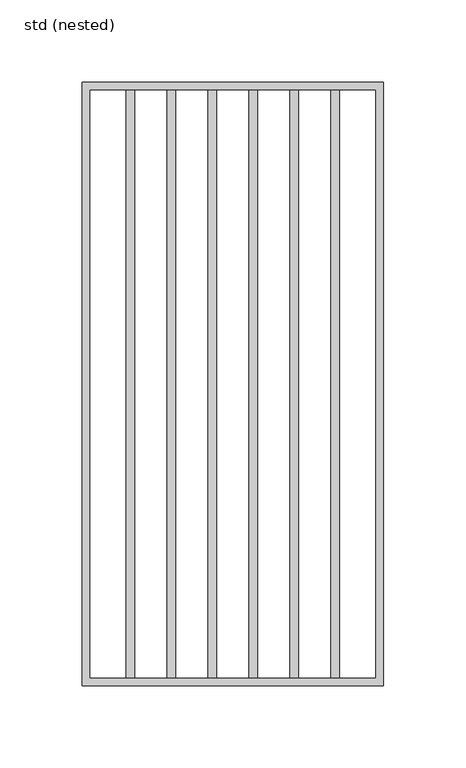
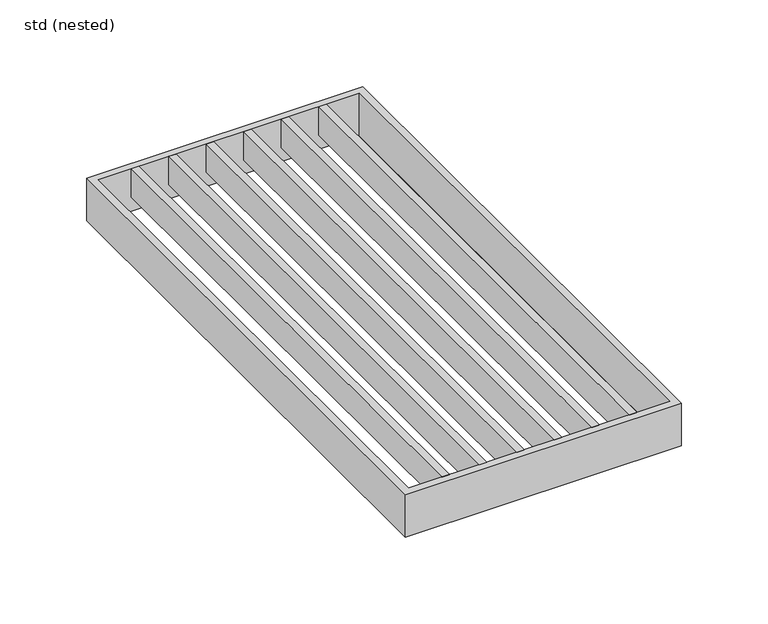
"""IFC4 building model written with IfcOpenShell, lengths in millimetres: sanitary terminal geometry, ZZZ_do not use_PF_ST_UN_grating for high capacity gully_ACO : std (nested)."""

from ifc_helpers import new_model, si_unit, frame, origin, place, context, project, spatial, polyline, outline, extrude, source, transform, mapped, element, save


def std_nested_dd35c763(model_context):
    return source(origin(), model_context, "Body", "SweptSolid", [
        extrude(outline(polyline([(-65.0, -179.0), (-65.0, 179.0), (-60.0, 179.0), (-60.0, -179.0), (-65.0, -179.0)])), frame((0.0, 0.0, -20.0), z_axis=(0.0, 0.0, 1.0), x_axis=(1.0, 0.0, 0.0)), (0.0, 0.0, 1.0), 20.0),
        extrude(outline(polyline([(-40.0, -179.0), (-40.0, 179.0), (-35.0, 179.0), (-35.0, -179.0), (-40.0, -179.0)])), frame((0.0, 0.0, -20.0), z_axis=(0.0, 0.0, 1.0), x_axis=(1.0, 0.0, 0.0)), (0.0, 0.0, 1.0), 20.0),
        extrude(outline(polyline([(65.0, -179.0), (60.0, -179.0), (60.0, 179.0), (65.0, 179.0), (65.0, -179.0)])), frame((0.0, 0.0, -20.0), z_axis=(0.0, 0.0, 1.0), x_axis=(1.0, 0.0, 0.0)), (0.0, 0.0, 1.0), 20.0),
        extrude(outline(polyline([(40.0, -179.0), (35.0, -179.0), (35.0, 179.0), (40.0, 179.0), (40.0, -179.0)])), frame((0.0, 0.0, -20.0), z_axis=(0.0, 0.0, 1.0), x_axis=(1.0, 0.0, 0.0)), (0.0, 0.0, 1.0), 20.0),
        extrude(outline(polyline([(-15.0, -179.0), (-15.0, 179.0), (-10.0, 179.0), (-10.0, -179.0), (-15.0, -179.0)])), frame((0.0, 0.0, -20.0), z_axis=(0.0, 0.0, 1.0), x_axis=(1.0, 0.0, 0.0)), (0.0, 0.0, 1.0), 20.0),
        extrude(outline(polyline([(15.0, -179.0), (10.0, -179.0), (10.0, 179.0), (15.0, 179.0), (15.0, -179.0)])), frame((0.0, 0.0, -20.0), z_axis=(0.0, 0.0, 1.0), x_axis=(1.0, 0.0, 0.0)), (0.0, 0.0, 1.0), 20.0),
        extrude(outline(polyline([(92.0, -184.0), (-92.0, -184.0), (-92.0, 184.0), (92.0, 184.0), (92.0, -184.0)]), holes=[polyline([(87.0, -179.0), (87.0, 179.0), (-87.0, 179.0), (-87.0, -179.0), (87.0, -179.0)])]), frame((0.0, 0.0, -30.0), z_axis=(0.0, 0.0, 1.0), x_axis=(1.0, 0.0, 0.0)), (0.0, 0.0, 1.0), 30.0),
    ])


if __name__ == "__main__":
    model = new_model("IFC4")
    model_context = context("Model", 3, world=origin())
    ifc_project = project(units=[si_unit("LENGTHUNIT", "METRE", prefix="MILLI")], contexts=[model_context])
    site = spatial("IfcSite", under=ifc_project)
    building = spatial("IfcBuilding", under=site)
    placement = place(None, origin())
    std_nested_shape = std_nested_dd35c763(model_context)
    element("IfcSanitaryTerminal", 1, ObjectType="ZZZ_do not use_PF_ST_UN_grating for high capacity gully_ACO : std (nested)", at=placement, inside=building, context=model_context, shape_type="MappedRepresentation", body=[
        mapped(std_nested_shape, transform((0.0, 0.0, 0.0), x_axis=(1.0, 0.0, 0.0), y_axis=(0.0, 1.0, 0.0), z_axis=(0.0, 0.0, 1.0))),
    ])
    save(model, "model.ifc")
